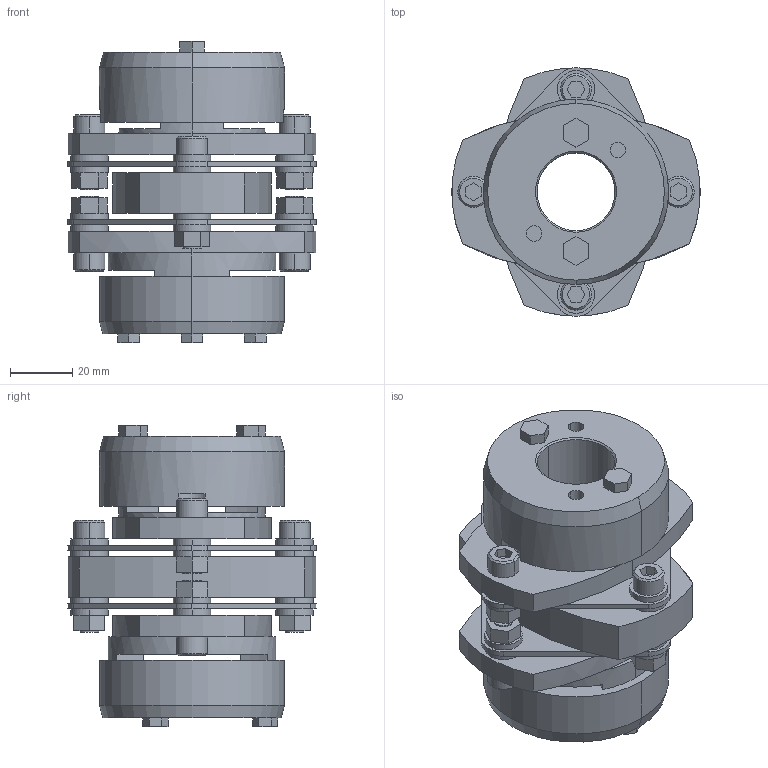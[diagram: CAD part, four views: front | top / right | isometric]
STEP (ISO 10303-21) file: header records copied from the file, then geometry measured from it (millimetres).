
FILE_DESCRIPTION((''),'2;1');
FILE_NAME('LCD-80T7-25×35.stp','2011-09-15T15:52:05',(''),(''),'AutoCAD STEP 2000i','AutoCAD 2000i',', , ');
FILE_SCHEMA(('CONFIG_CONTROL_DESIGN'));
Length unit declared in the file: millimetre
Products named in the file (14): LCD-80T7-24×35; 忣兜1; LC80T7-T035; LC80T7-T032; LC80T7-T030; LC80T7-T028; LC80T7-T024-1; LC80T7-T024; LC80T7-T022; LC80T7-T019-1; LC80T7-T019; LC80T7-T017-1; LC80T7-T017; LCD80-ITA
Assembly tree (13 placements, depth 2):
  LCD-80T7-24×35
    忣兜1
    LC80T7-T035
    LC80T7-T032
    LC80T7-T030
    LC80T7-T028
    LC80T7-T024-1
    LC80T7-T024
    LC80T7-T022
    LC80T7-T019-1
    LC80T7-T019
    LC80T7-T017-1
    LC80T7-T017
    LCD80-ITA
Bounding box: 80 x 79.95 x 96.8 mm (x, y, z)
Volume: 182962.6 mm3; surface area: 58832.2 mm2
Topology: 1 solids, 1 shells, 320 faces, 782 edges, 512 vertices
Faces by surface type: plane 174, cylinder 122, cone 24
Entity records: 9787 total; most frequent: DIRECTION 1746, CARTESIAN_POINT 1628, ORIENTED_EDGE 1564, EDGE_CURVE 782, AXIS2_PLACEMENT_3D 630, VERTEX_POINT 512, VECTOR 486, LINE 486
